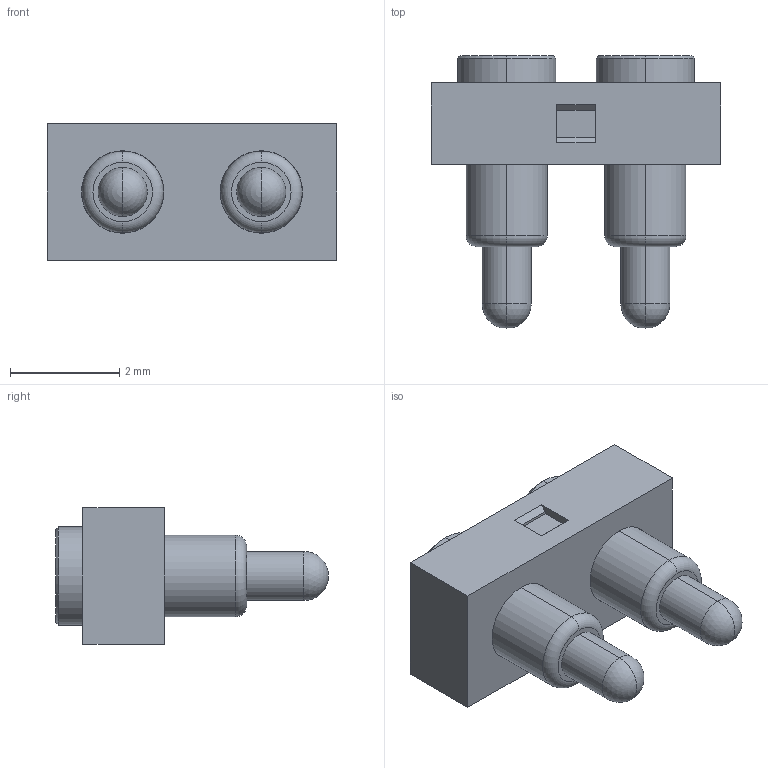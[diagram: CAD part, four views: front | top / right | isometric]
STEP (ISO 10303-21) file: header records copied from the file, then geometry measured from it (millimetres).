
FILE_DESCRIPTION((''),'2;1');
FILE_NAME('ASM0001_ASM','2023-06-06T17:21:51',('USER'),(''),'CREO PARAMETRIC BY PTC INC, 2020154','CREO PARAMETRIC BY PTC INC, 2020154','');
FILE_SCHEMA(('CONFIG_CONTROL_DESIGN'));
Length unit declared in the file: millimetre
Products named in the file (3): PRT0002; PRT0001; ASM0001_ASM
Assembly tree (3 placements, depth 2):
  ASM0001_ASM
    PRT0002
    PRT0001  x2
Bounding box: 5.3 x 5 x 2.5 mm (x, y, z)
Volume: 29.1 mm3; surface area: 108 mm2
Topology: 3 solids, 3 shells, 74 faces, 160 edges, 98 vertices
Faces by surface type: plane 30, cylinder 28, cone 8, torus 4, sphere 4
Entity records: 1454 total; most frequent: DIRECTION 258, CARTESIAN_POINT 232, ORIENTED_EDGE 216, EDGE_CURVE 108, AXIS2_PLACEMENT_3D 95, VERTEX_POINT 69, VECTOR 68, LINE 68
